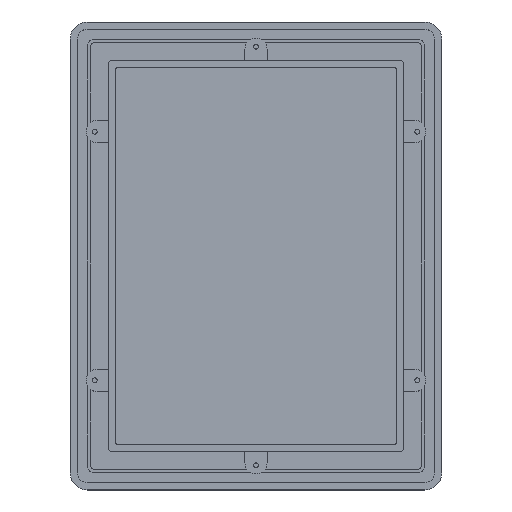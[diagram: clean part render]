
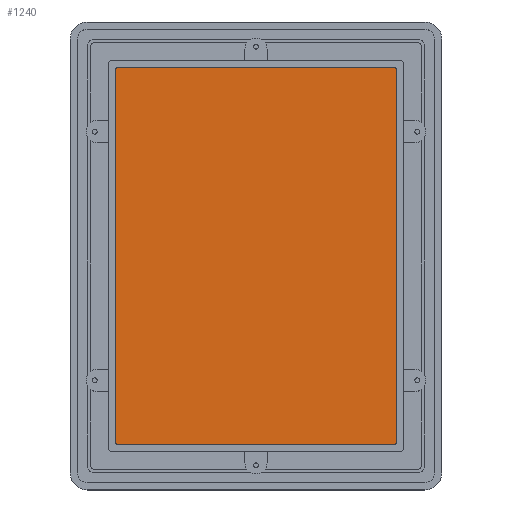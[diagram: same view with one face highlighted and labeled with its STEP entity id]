
A CAD part, top view. The second image highlights one B-rep face of the part: STEP entity #1240.
In plain terms, the highlighted planar face has unit normal (0, 0, 1).
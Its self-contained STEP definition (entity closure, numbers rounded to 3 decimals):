
#71 = CARTESIAN_POINT ( 'NONE',  ( -132.5, 19.5, 3. ) ) ;
#152 = ORIENTED_EDGE ( 'NONE', *, *, #1721, .T. ) ;
#198 = CARTESIAN_POINT ( 'NONE',  ( -131.5, 19.5, 3. ) ) ;
#217 = CARTESIAN_POINT ( 'NONE',  ( -131.5, 170.5, 3. ) ) ;
#322 = CARTESIAN_POINT ( 'NONE',  ( -18.5, 19.5, 3. ) ) ;
#516 = VERTEX_POINT ( 'NONE', #1852 ) ;
#564 = DIRECTION ( 'NONE',  ( -1., 0., 0. ) ) ;
#584 = DIRECTION ( 'NONE',  ( -1., 0., 0. ) ) ;
#605 = CARTESIAN_POINT ( 'NONE',  ( -18.5, 170.5, 3. ) ) ;
#636 = VECTOR ( 'NONE', #2381, 1000. ) ;
#717 = VERTEX_POINT ( 'NONE', #901 ) ;
#726 = VERTEX_POINT ( 'NONE', #1622 ) ;
#801 = AXIS2_PLACEMENT_3D ( 'NONE', #3485, #1717, #4286 ) ;
#803 = ORIENTED_EDGE ( 'NONE', *, *, #4027, .T. ) ;
#811 = AXIS2_PLACEMENT_3D ( 'NONE', #2637, #4503, #2297 ) ;
#901 = CARTESIAN_POINT ( 'NONE',  ( -18.5, 170.5, 3. ) ) ;
#967 = LINE ( 'NONE', #2704, #4614 ) ;
#969 = DIRECTION ( 'NONE',  ( 0., 1., 0. ) ) ;
#1240 = ADVANCED_FACE ( 'NONE', ( #1623 ), #3389, .T. ) ;
#1251 = CIRCLE ( 'NONE', #1713, 1. ) ;
#1271 = ORIENTED_EDGE ( 'NONE', *, *, #2172, .T. ) ;
#1393 = VERTEX_POINT ( 'NONE', #3379 ) ;
#1398 = CARTESIAN_POINT ( 'NONE',  ( -131.5, 171.5, 3. ) ) ;
#1408 = ORIENTED_EDGE ( 'NONE', *, *, #3140, .T. ) ;
#1476 = CARTESIAN_POINT ( 'NONE',  ( -19.5, 170.5, 3. ) ) ;
#1503 = CIRCLE ( 'NONE', #3063, 1. ) ;
#1571 = VECTOR ( 'NONE', #969, 1000. ) ;
#1622 = CARTESIAN_POINT ( 'NONE',  ( -19.5, 171.5, 3. ) ) ;
#1623 = FACE_OUTER_BOUND ( 'NONE', #3990, .T. ) ;
#1686 = LINE ( 'NONE', #605, #1571 ) ;
#1697 = DIRECTION ( 'NONE',  ( 1., 0., 0. ) ) ;
#1713 = AXIS2_PLACEMENT_3D ( 'NONE', #217, #2731, #584 ) ;
#1717 = DIRECTION ( 'NONE',  ( 0., 0., 1. ) ) ;
#1721 = EDGE_CURVE ( 'NONE', #717, #726, #1503, .T. ) ;
#1824 = DIRECTION ( 'NONE',  ( -1., 0., 0. ) ) ;
#1847 = VECTOR ( 'NONE', #1697, 1000. ) ;
#1852 = CARTESIAN_POINT ( 'NONE',  ( -132.5, 170.5, 3. ) ) ;
#2008 = CARTESIAN_POINT ( 'NONE',  ( -132.5, 170.5, 3. ) ) ;
#2148 = VERTEX_POINT ( 'NONE', #1398 ) ;
#2172 = EDGE_CURVE ( 'NONE', #726, #2148, #967, .T. ) ;
#2222 = AXIS2_PLACEMENT_3D ( 'NONE', #198, #2714, #564 ) ;
#2297 = DIRECTION ( 'NONE',  ( 1., 0., 0. ) ) ;
#2308 = CIRCLE ( 'NONE', #801, 1. ) ;
#2350 = ORIENTED_EDGE ( 'NONE', *, *, #3995, .T. ) ;
#2352 = VERTEX_POINT ( 'NONE', #2525 ) ;
#2381 = DIRECTION ( 'NONE',  ( 0., -1., 0. ) ) ;
#2500 = VERTEX_POINT ( 'NONE', #71 ) ;
#2525 = CARTESIAN_POINT ( 'NONE',  ( -19.5, 18.5, 3. ) ) ;
#2637 = CARTESIAN_POINT ( 'NONE',  ( -9.5, 180.5, 3. ) ) ;
#2704 = CARTESIAN_POINT ( 'NONE',  ( -131.5, 171.5, 3. ) ) ;
#2714 = DIRECTION ( 'NONE',  ( 0., 0., 1. ) ) ;
#2723 = EDGE_CURVE ( 'NONE', #2148, #516, #1251, .T. ) ;
#2731 = DIRECTION ( 'NONE',  ( 0., 0., 1. ) ) ;
#2795 = ORIENTED_EDGE ( 'NONE', *, *, #2723, .T. ) ;
#2821 = EDGE_CURVE ( 'NONE', #1393, #2352, #3809, .T. ) ;
#2962 = VERTEX_POINT ( 'NONE', #322 ) ;
#3063 = AXIS2_PLACEMENT_3D ( 'NONE', #1476, #4398, #1824 ) ;
#3099 = EDGE_CURVE ( 'NONE', #2962, #717, #1686, .T. ) ;
#3140 = EDGE_CURVE ( 'NONE', #2352, #2962, #2308, .T. ) ;
#3379 = CARTESIAN_POINT ( 'NONE',  ( -131.5, 18.5, 3. ) ) ;
#3389 = PLANE ( 'NONE',  #811 ) ;
#3485 = CARTESIAN_POINT ( 'NONE',  ( -19.5, 19.5, 3. ) ) ;
#3597 = DIRECTION ( 'NONE',  ( -1., 0., 0. ) ) ;
#3809 = LINE ( 'NONE', #3890, #1847 ) ;
#3885 = ORIENTED_EDGE ( 'NONE', *, *, #3099, .T. ) ;
#3890 = CARTESIAN_POINT ( 'NONE',  ( -131.5, 18.5, 3. ) ) ;
#3990 = EDGE_LOOP ( 'NONE', ( #152, #1271, #2795, #803, #2350, #4025, #1408, #3885 ) ) ;
#3995 = EDGE_CURVE ( 'NONE', #2500, #1393, #4508, .T. ) ;
#4025 = ORIENTED_EDGE ( 'NONE', *, *, #2821, .T. ) ;
#4027 = EDGE_CURVE ( 'NONE', #516, #2500, #4283, .T. ) ;
#4283 = LINE ( 'NONE', #2008, #636 ) ;
#4286 = DIRECTION ( 'NONE',  ( -1., 0., 0. ) ) ;
#4398 = DIRECTION ( 'NONE',  ( 0., 0., 1. ) ) ;
#4503 = DIRECTION ( 'NONE',  ( 0., 0., 1. ) ) ;
#4508 = CIRCLE ( 'NONE', #2222, 1. ) ;
#4614 = VECTOR ( 'NONE', #3597, 1000. ) ;
